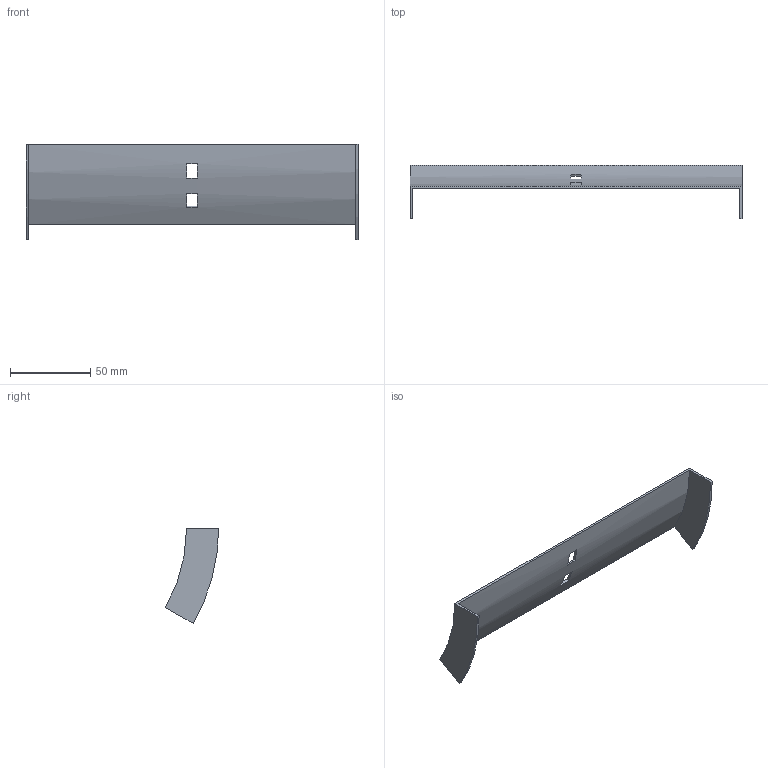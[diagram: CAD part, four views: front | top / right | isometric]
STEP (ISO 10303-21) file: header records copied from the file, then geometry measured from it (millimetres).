
FILE_DESCRIPTION (( 'STEP AP214' ), '1' );
FILE_NAME ('32N1R200.step', '2025-02-21T09:22:26', ( '' ), ( '' ), 'SwSTEP 2.0', 'SolidWorks 2023', '' );
FILE_SCHEMA (( 'AUTOMOTIVE_DESIGN' ));
Length unit declared in the file: millimetre
Products named in the file (1): 32N1R200
Bounding box: 207 x 33.2 x 59.25 mm (x, y, z)
Volume: 19132.5 mm3; surface area: 26521.4 mm2
Topology: 1 solids, 1 shells, 18 faces, 48 edges, 32 vertices
Faces by surface type: plane 14, cylinder 4
Entity records: 599 total; most frequent: DIRECTION 102, CARTESIAN_POINT 99, ORIENTED_EDGE 96, EDGE_CURVE 48, AXIS2_PLACEMENT_3D 35, LINE 32, VERTEX_POINT 32, VECTOR 32
